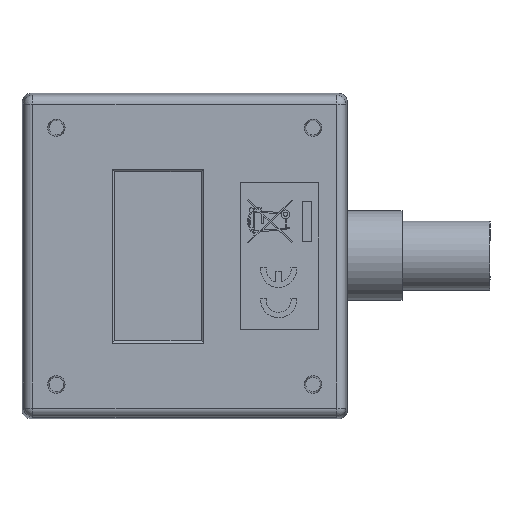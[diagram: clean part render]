
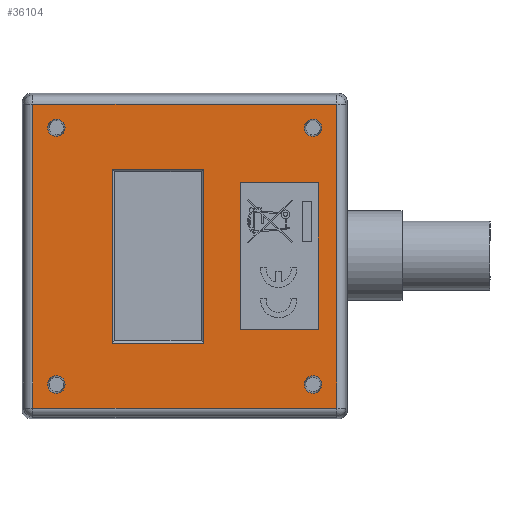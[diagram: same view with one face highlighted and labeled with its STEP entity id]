
A CAD part, front view. The second image highlights one B-rep face of the part: STEP entity #36104.
In plain terms, the highlighted planar face has unit normal (0, -1, 0) as drawn and (0, 0, -1) by its records, which use the part's own axes.
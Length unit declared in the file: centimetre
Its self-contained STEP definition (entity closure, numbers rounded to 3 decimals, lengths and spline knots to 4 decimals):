
#14749=CIRCLE('',#37342,0.1209);
#14750=CIRCLE('',#37343,0.1209);
#14751=CIRCLE('',#37344,0.1209);
#14752=CIRCLE('',#37345,0.1209);
#15885=VERTEX_POINT('',#45466);
#15886=VERTEX_POINT('',#45468);
#15888=VERTEX_POINT('',#45474);
#15890=VERTEX_POINT('',#45480);
#15985=VERTEX_POINT('',#45826);
#15986=VERTEX_POINT('',#45828);
#15988=VERTEX_POINT('',#45834);
#15990=VERTEX_POINT('',#45840);
#16111=VERTEX_POINT('',#46912);
#16112=VERTEX_POINT('',#46914);
#16113=VERTEX_POINT('',#46916);
#16114=VERTEX_POINT('',#46918);
#16115=VERTEX_POINT('',#46920);
#16116=VERTEX_POINT('',#46921);
#16117=VERTEX_POINT('',#46923);
#16118=VERTEX_POINT('',#46925);
#18172=VECTOR('',#39559,1.);
#18175=VECTOR('',#39563,1.);
#18178=VECTOR('',#39567,1.);
#18181=VECTOR('',#39571,1.);
#18311=VECTOR('',#39765,1.);
#18314=VECTOR('',#39769,1.);
#18317=VECTOR('',#39773,1.);
#18320=VECTOR('',#39777,1.);
#18481=VECTOR('',#40010,1.);
#18482=VECTOR('',#40011,1.);
#18483=VECTOR('',#40012,1.);
#18484=VECTOR('',#40013,1.);
#20819=LINE('',#45467,#18172);
#20822=LINE('',#45473,#18175);
#20825=LINE('',#45479,#18178);
#20828=LINE('',#45484,#18181);
#20958=LINE('',#45827,#18311);
#20961=LINE('',#45833,#18314);
#20964=LINE('',#45839,#18317);
#20967=LINE('',#45844,#18320);
#21128=LINE('',#46919,#18481);
#21129=LINE('',#46922,#18482);
#21130=LINE('',#46924,#18483);
#21131=LINE('',#46926,#18484);
#23551=EDGE_CURVE('',#15886,#15885,#20819,.T.);
#23554=EDGE_CURVE('',#15888,#15886,#20822,.T.);
#23557=EDGE_CURVE('',#15890,#15888,#20825,.T.);
#23560=EDGE_CURVE('',#15885,#15890,#20828,.T.);
#23700=EDGE_CURVE('',#15986,#15985,#20958,.F.);
#23703=EDGE_CURVE('',#15988,#15986,#20961,.F.);
#23706=EDGE_CURVE('',#15990,#15988,#20964,.F.);
#23709=EDGE_CURVE('',#15985,#15990,#20967,.F.);
#23890=EDGE_CURVE('',#16111,#16111,#14749,.F.);
#23891=EDGE_CURVE('',#16112,#16112,#14750,.F.);
#23892=EDGE_CURVE('',#16113,#16113,#14751,.F.);
#23893=EDGE_CURVE('',#16114,#16114,#14752,.F.);
#23894=EDGE_CURVE('',#16115,#16116,#21128,.T.);
#23895=EDGE_CURVE('',#16117,#16115,#21129,.T.);
#23896=EDGE_CURVE('',#16118,#16117,#21130,.T.);
#23897=EDGE_CURVE('',#16116,#16118,#21131,.T.);
#28056=ORIENTED_EDGE('',*,*,#23551,.T.);
#28057=ORIENTED_EDGE('',*,*,#23560,.T.);
#28058=ORIENTED_EDGE('',*,*,#23557,.T.);
#28059=ORIENTED_EDGE('',*,*,#23554,.T.);
#28060=ORIENTED_EDGE('',*,*,#23890,.T.);
#28061=ORIENTED_EDGE('',*,*,#23891,.T.);
#28062=ORIENTED_EDGE('',*,*,#23892,.T.);
#28063=ORIENTED_EDGE('',*,*,#23893,.T.);
#28064=ORIENTED_EDGE('',*,*,#23894,.F.);
#28065=ORIENTED_EDGE('',*,*,#23895,.F.);
#28066=ORIENTED_EDGE('',*,*,#23896,.F.);
#28067=ORIENTED_EDGE('',*,*,#23897,.F.);
#28068=ORIENTED_EDGE('',*,*,#23700,.T.);
#28069=ORIENTED_EDGE('',*,*,#23709,.T.);
#28070=ORIENTED_EDGE('',*,*,#23706,.T.);
#28071=ORIENTED_EDGE('',*,*,#23703,.T.);
#33444=EDGE_LOOP('',(#28056,#28057,#28058,#28059));
#33445=EDGE_LOOP('',(#28060));
#33446=EDGE_LOOP('',(#28061));
#33447=EDGE_LOOP('',(#28062));
#33448=EDGE_LOOP('',(#28063));
#33449=EDGE_LOOP('',(#28064,#28065,#28066,#28067));
#33450=EDGE_LOOP('',(#28068,#28069,#28070,#28071));
#34785=FACE_BOUND('',#33444,.T.);
#34786=FACE_BOUND('',#33445,.T.);
#34787=FACE_BOUND('',#33446,.T.);
#34788=FACE_BOUND('',#33447,.T.);
#34789=FACE_BOUND('',#33448,.T.);
#34790=FACE_BOUND('',#33449,.T.);
#34791=FACE_BOUND('',#33450,.T.);
#36104=ADVANCED_FACE('',(#34785,#34786,#34787,#34788,#34789,#34790,#34791),
#54861,.F.);
#37341=AXIS2_PLACEMENT_3D('',#46910,#40001,$);
#37342=AXIS2_PLACEMENT_3D('',#46911,#40002,#40003);
#37343=AXIS2_PLACEMENT_3D('',#46913,#40004,#40005);
#37344=AXIS2_PLACEMENT_3D('',#46915,#40006,#40007);
#37345=AXIS2_PLACEMENT_3D('',#46917,#40008,#40009);
#39559=DIRECTION('',(1.,0.,0.));
#39563=DIRECTION('',(0.,-1.,0.));
#39567=DIRECTION('',(-1.,0.,0.));
#39571=DIRECTION('',(0.,1.,0.));
#39765=DIRECTION('',(-1.,0.,0.));
#39769=DIRECTION('',(0.,1.,0.));
#39773=DIRECTION('',(1.,0.,0.));
#39777=DIRECTION('',(0.,-1.,0.));
#40001=DIRECTION('',(0.,0.,1.));
#40002=DIRECTION('',(0.,0.,-1.));
#40003=DIRECTION('',(-0.121,0.,0.));
#40004=DIRECTION('',(0.,0.,-1.));
#40005=DIRECTION('',(-0.121,0.,0.));
#40006=DIRECTION('',(0.,0.,-1.));
#40007=DIRECTION('',(-0.121,0.,0.));
#40008=DIRECTION('',(0.,0.,-1.));
#40009=DIRECTION('',(-0.121,0.,0.));
#40010=DIRECTION('',(-1.,0.,0.));
#40011=DIRECTION('',(0.,1.,0.));
#40012=DIRECTION('',(1.,0.,0.));
#40013=DIRECTION('',(0.,-1.,0.));
#45466=CARTESIAN_POINT('',(1.2065,-0.2639,-0.0032));
#45467=CARTESIAN_POINT('',(0.6033,-0.2639,-0.0032));
#45468=CARTESIAN_POINT('',(-1.2065,-0.2639,-0.0032));
#45473=CARTESIAN_POINT('',(-1.2065,-0.1319,-0.0032));
#45474=CARTESIAN_POINT('',(-1.2065,1.0061,-0.0032));
#45479=CARTESIAN_POINT('',(-0.6032,1.0061,-0.0032));
#45480=CARTESIAN_POINT('',(1.2065,1.0061,-0.0032));
#45484=CARTESIAN_POINT('',(1.2065,0.5031,-0.0032));
#45826=CARTESIAN_POINT('',(1.0178,-1.8531,-0.0032));
#45827=CARTESIAN_POINT('',(0.,-1.8531,-0.0032));
#45828=CARTESIAN_POINT('',(-1.0178,-1.8531,-0.0032));
#45833=CARTESIAN_POINT('',(-1.0178,-0.3279,-0.0032));
#45834=CARTESIAN_POINT('',(-1.0178,-0.7701,-0.0032));
#45839=CARTESIAN_POINT('',(0.,-0.7701,-0.0032));
#45840=CARTESIAN_POINT('',(1.0178,-0.7701,-0.0032));
#45844=CARTESIAN_POINT('',(1.0178,-0.3279,-0.0032));
#46910=CARTESIAN_POINT('',(0.,0.,-0.0032));
#46911=CARTESIAN_POINT('',(1.778,1.778,-0.0032));
#46912=CARTESIAN_POINT('',(1.8989,1.778,-0.0032));
#46913=CARTESIAN_POINT('',(1.778,-1.778,-0.0032));
#46914=CARTESIAN_POINT('',(1.8989,-1.778,-0.0032));
#46915=CARTESIAN_POINT('',(-1.778,-1.778,-0.0032));
#46916=CARTESIAN_POINT('',(-1.6571,-1.778,-0.0032));
#46917=CARTESIAN_POINT('',(-1.778,1.778,-0.0032));
#46918=CARTESIAN_POINT('',(-1.6571,1.778,-0.0032));
#46919=CARTESIAN_POINT('',(0.,2.1054,-0.0032));
#46920=CARTESIAN_POINT('',(2.1054,2.1054,-0.0032));
#46921=CARTESIAN_POINT('',(-2.1054,2.1054,-0.0032));
#46922=CARTESIAN_POINT('',(2.1054,0.,-0.0032));
#46923=CARTESIAN_POINT('',(2.1054,-2.1054,-0.0032));
#46924=CARTESIAN_POINT('',(0.,-2.1054,-0.0032));
#46925=CARTESIAN_POINT('',(-2.1054,-2.1054,-0.0032));
#46926=CARTESIAN_POINT('',(-2.1054,0.,-0.0032));
#54861=PLANE('',#37341);
